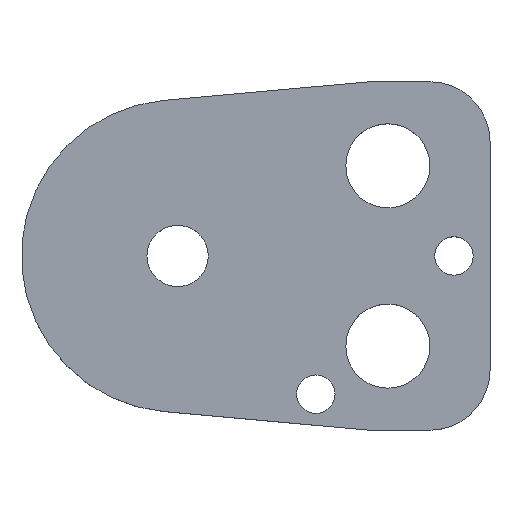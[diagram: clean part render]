
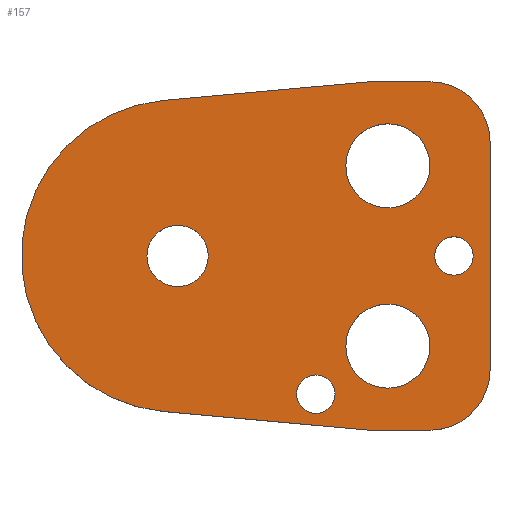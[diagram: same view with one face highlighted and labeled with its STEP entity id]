
A CAD part, top view. The second image highlights one B-rep face of the part: STEP entity #157.
In plain terms, the highlighted planar face has unit normal (0, 0, 1).
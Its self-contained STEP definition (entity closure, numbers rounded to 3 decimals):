
#103=FACE_BOUND('',#207,.T.);
#104=FACE_BOUND('',#208,.T.);
#105=FACE_BOUND('',#209,.T.);
#106=FACE_BOUND('',#210,.T.);
#107=FACE_BOUND('',#211,.T.);
#108=FACE_BOUND('',#212,.T.);
#122=CIRCLE('',#480,10.);
#124=CIRCLE('',#484,10.);
#127=CIRCLE('',#490,26.);
#138=CIRCLE('',#503,3.2);
#139=CIRCLE('',#504,3.2);
#140=CIRCLE('',#505,7.);
#141=CIRCLE('',#506,7.);
#142=CIRCLE('',#507,7.);
#143=CIRCLE('',#508,7.);
#144=CIRCLE('',#509,3.2);
#145=CIRCLE('',#510,3.2);
#146=CIRCLE('',#511,5.1);
#147=CIRCLE('',#512,5.1);
#157=ADVANCED_FACE('',(#103,#104,#105,#106,#107,#108),#174,.T.);
#174=PLANE('',#513);
#207=EDGE_LOOP('',(#273,#274,#275,#276,#277,#278,#279,#280));
#208=EDGE_LOOP('',(#281,#282));
#209=EDGE_LOOP('',(#283,#284));
#210=EDGE_LOOP('',(#285,#286));
#211=EDGE_LOOP('',(#287,#288));
#212=EDGE_LOOP('',(#289,#290));
#273=ORIENTED_EDGE('',*,*,#368,.T.);
#274=ORIENTED_EDGE('',*,*,#372,.T.);
#275=ORIENTED_EDGE('',*,*,#375,.T.);
#276=ORIENTED_EDGE('',*,*,#378,.T.);
#277=ORIENTED_EDGE('',*,*,#381,.T.);
#278=ORIENTED_EDGE('',*,*,#384,.T.);
#279=ORIENTED_EDGE('',*,*,#387,.T.);
#280=ORIENTED_EDGE('',*,*,#390,.T.);
#281=ORIENTED_EDGE('',*,*,#401,.T.);
#282=ORIENTED_EDGE('',*,*,#402,.T.);
#283=ORIENTED_EDGE('',*,*,#403,.T.);
#284=ORIENTED_EDGE('',*,*,#404,.T.);
#285=ORIENTED_EDGE('',*,*,#405,.T.);
#286=ORIENTED_EDGE('',*,*,#406,.T.);
#287=ORIENTED_EDGE('',*,*,#407,.T.);
#288=ORIENTED_EDGE('',*,*,#408,.T.);
#289=ORIENTED_EDGE('',*,*,#409,.T.);
#290=ORIENTED_EDGE('',*,*,#410,.T.);
#332=VERTEX_POINT('',#649);
#333=VERTEX_POINT('',#651);
#336=VERTEX_POINT('',#658);
#338=VERTEX_POINT('',#664);
#340=VERTEX_POINT('',#670);
#342=VERTEX_POINT('',#676);
#344=VERTEX_POINT('',#682);
#346=VERTEX_POINT('',#688);
#357=VERTEX_POINT('',#717);
#358=VERTEX_POINT('',#718);
#359=VERTEX_POINT('',#721);
#360=VERTEX_POINT('',#722);
#361=VERTEX_POINT('',#725);
#362=VERTEX_POINT('',#726);
#363=VERTEX_POINT('',#729);
#364=VERTEX_POINT('',#730);
#365=VERTEX_POINT('',#733);
#366=VERTEX_POINT('',#734);
#368=EDGE_CURVE('',#333,#332,#422,.T.);
#372=EDGE_CURVE('',#332,#336,#426,.T.);
#375=EDGE_CURVE('',#336,#338,#122,.T.);
#378=EDGE_CURVE('',#338,#340,#430,.T.);
#381=EDGE_CURVE('',#340,#342,#124,.T.);
#384=EDGE_CURVE('',#342,#344,#434,.T.);
#387=EDGE_CURVE('',#344,#346,#437,.T.);
#390=EDGE_CURVE('',#346,#333,#127,.T.);
#401=EDGE_CURVE('',#357,#358,#138,.T.);
#402=EDGE_CURVE('',#358,#357,#139,.T.);
#403=EDGE_CURVE('',#359,#360,#140,.T.);
#404=EDGE_CURVE('',#360,#359,#141,.T.);
#405=EDGE_CURVE('',#361,#362,#142,.T.);
#406=EDGE_CURVE('',#362,#361,#143,.T.);
#407=EDGE_CURVE('',#363,#364,#144,.T.);
#408=EDGE_CURVE('',#364,#363,#145,.T.);
#409=EDGE_CURVE('',#365,#366,#146,.T.);
#410=EDGE_CURVE('',#366,#365,#147,.T.);
#422=LINE('',#650,#450);
#426=LINE('',#659,#454);
#430=LINE('',#671,#458);
#434=LINE('',#683,#462);
#437=LINE('',#689,#465);
#450=VECTOR('',#527,1.);
#454=VECTOR('',#533,1.);
#458=VECTOR('',#545,1.);
#462=VECTOR('',#557,1.);
#465=VECTOR('',#562,1.);
#480=AXIS2_PLACEMENT_3D('',#665,#538,#539);
#484=AXIS2_PLACEMENT_3D('',#677,#550,#551);
#490=AXIS2_PLACEMENT_3D('',#693,#568,#569);
#503=AXIS2_PLACEMENT_3D('',#716,#594,#595);
#504=AXIS2_PLACEMENT_3D('',#719,#596,#597);
#505=AXIS2_PLACEMENT_3D('',#720,#598,#599);
#506=AXIS2_PLACEMENT_3D('',#723,#600,#601);
#507=AXIS2_PLACEMENT_3D('',#724,#602,#603);
#508=AXIS2_PLACEMENT_3D('',#727,#604,#605);
#509=AXIS2_PLACEMENT_3D('',#728,#606,#607);
#510=AXIS2_PLACEMENT_3D('',#731,#608,#609);
#511=AXIS2_PLACEMENT_3D('',#732,#610,#611);
#512=AXIS2_PLACEMENT_3D('',#735,#612,#613);
#513=AXIS2_PLACEMENT_3D('',#736,#614,#615);
#527=DIRECTION('',(0.996,-0.09,0.));
#533=DIRECTION('',(1.,0.,0.));
#538=DIRECTION('',(0.,0.,1.));
#539=DIRECTION('',(-0.707,0.707,0.));
#545=DIRECTION('',(0.,1.,0.));
#550=DIRECTION('',(0.,0.,1.));
#551=DIRECTION('',(-0.707,-0.707,0.));
#557=DIRECTION('',(-1.,0.,0.));
#562=DIRECTION('',(-0.996,-0.09,0.));
#568=DIRECTION('',(0.,0.,1.));
#569=DIRECTION('',(1.,0.,0.));
#594=DIRECTION('',(0.,0.,-1.));
#595=DIRECTION('',(-1.,0.,0.));
#596=DIRECTION('',(0.,0.,-1.));
#597=DIRECTION('',(1.,0.,0.));
#598=DIRECTION('',(0.,0.,-1.));
#599=DIRECTION('',(-1.,0.,0.));
#600=DIRECTION('',(0.,0.,-1.));
#601=DIRECTION('',(1.,0.,0.));
#602=DIRECTION('',(0.,0.,-1.));
#603=DIRECTION('',(-1.,0.,0.));
#604=DIRECTION('',(0.,0.,-1.));
#605=DIRECTION('',(1.,0.,0.));
#606=DIRECTION('',(0.,0.,-1.));
#607=DIRECTION('',(-1.,0.,0.));
#608=DIRECTION('',(0.,0.,-1.));
#609=DIRECTION('',(1.,0.,0.));
#610=DIRECTION('',(0.,0.,-1.));
#611=DIRECTION('',(-1.,0.,0.));
#612=DIRECTION('',(0.,0.,-1.));
#613=DIRECTION('',(1.,0.,0.));
#614=DIRECTION('',(0.,0.,1.));
#615=DIRECTION('',(0.996,-0.09,0.));
#649=CARTESIAN_POINT('',(32.,-29.,7.));
#650=CARTESIAN_POINT('',(32.,-29.,7.));
#651=CARTESIAN_POINT('',(-2.342,-25.894,7.));
#658=CARTESIAN_POINT('',(42.,-29.,7.));
#659=CARTESIAN_POINT('',(32.,-29.,7.));
#664=CARTESIAN_POINT('',(52.,-19.,7.));
#665=CARTESIAN_POINT('',(42.,-19.,7.));
#670=CARTESIAN_POINT('',(52.,19.,7.));
#671=CARTESIAN_POINT('',(52.,19.,7.));
#676=CARTESIAN_POINT('',(42.,29.,7.));
#677=CARTESIAN_POINT('',(42.,19.,7.));
#682=CARTESIAN_POINT('',(32.,29.,7.));
#683=CARTESIAN_POINT('',(32.,29.,7.));
#688=CARTESIAN_POINT('',(-2.342,25.894,7.));
#689=CARTESIAN_POINT('',(32.,29.,7.));
#693=CARTESIAN_POINT('',(0.,0.,7.));
#716=CARTESIAN_POINT('',(46.,0.,7.));
#717=CARTESIAN_POINT('',(46.,3.2,7.));
#718=CARTESIAN_POINT('',(46.,-3.2,7.));
#719=CARTESIAN_POINT('',(46.,0.,7.));
#720=CARTESIAN_POINT('',(35.,15.,7.));
#721=CARTESIAN_POINT('',(35.,22.,7.));
#722=CARTESIAN_POINT('',(35.,8.,7.));
#723=CARTESIAN_POINT('',(35.,15.,7.));
#724=CARTESIAN_POINT('',(35.,-15.,7.));
#725=CARTESIAN_POINT('',(35.,-8.,7.));
#726=CARTESIAN_POINT('',(35.,-22.,7.));
#727=CARTESIAN_POINT('',(35.,-15.,7.));
#728=CARTESIAN_POINT('',(23.,-23.,7.));
#729=CARTESIAN_POINT('',(23.,-19.8,7.));
#730=CARTESIAN_POINT('',(23.,-26.2,7.));
#731=CARTESIAN_POINT('',(23.,-23.,7.));
#732=CARTESIAN_POINT('',(0.,0.,7.));
#733=CARTESIAN_POINT('',(0.,5.1,7.));
#734=CARTESIAN_POINT('',(0.,-5.1,7.));
#735=CARTESIAN_POINT('',(0.,0.,7.));
#736=CARTESIAN_POINT('',(-2.342,-25.894,7.));
